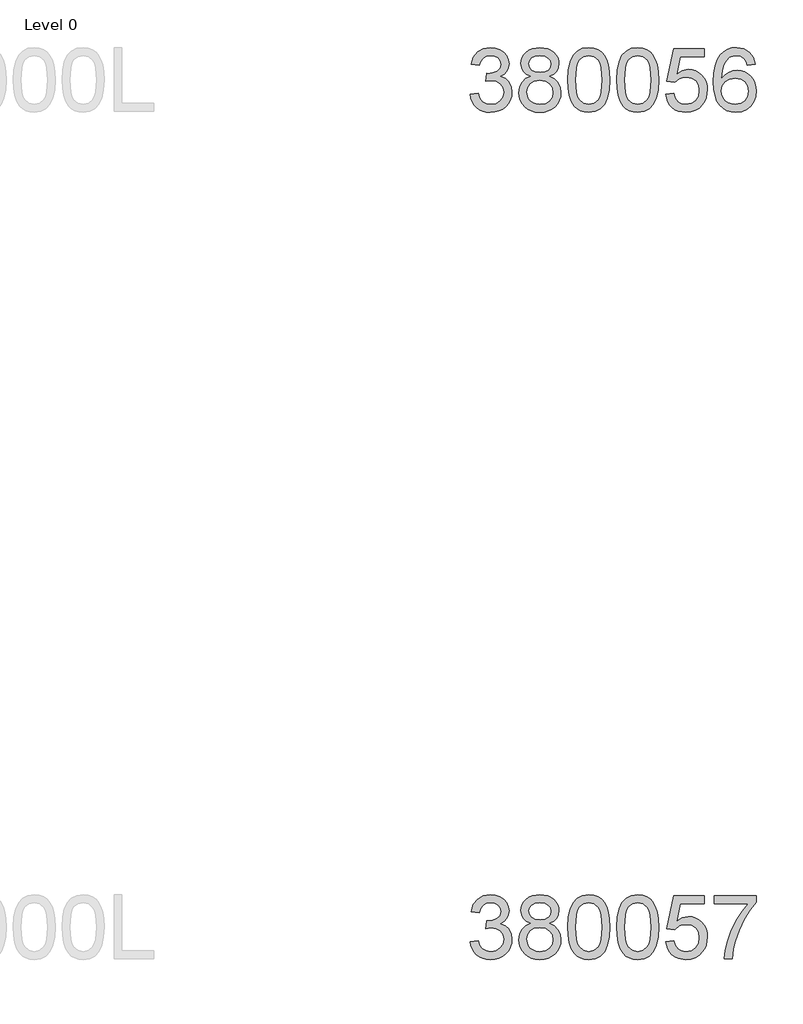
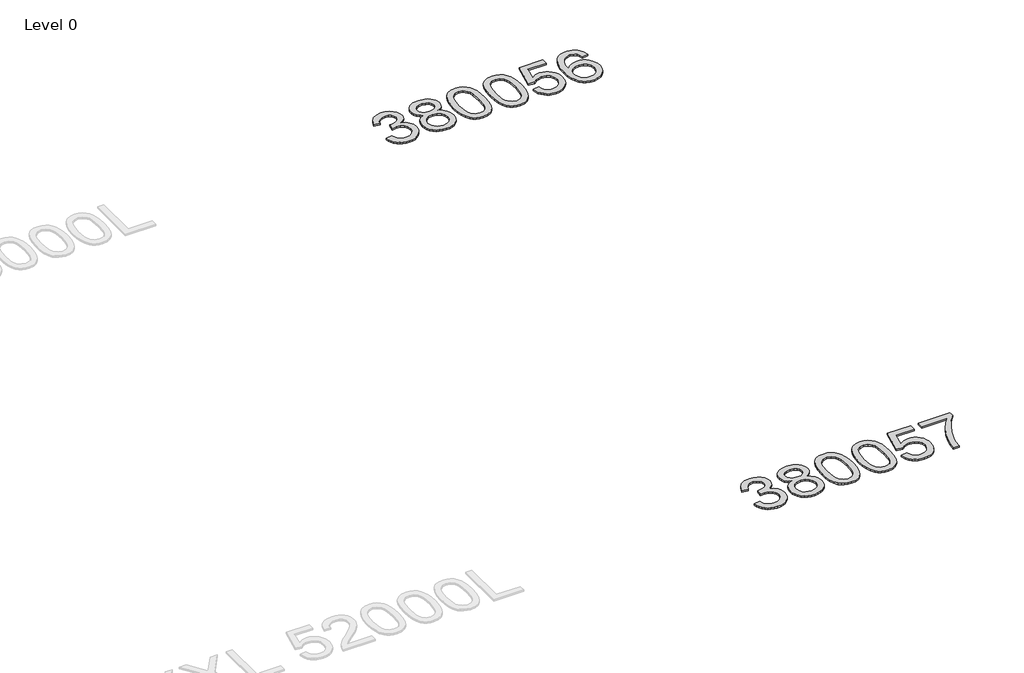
# One storey, part 8 of 37: 2 proxies.
"""IFC4 building model written with IfcOpenShell, lengths in millimetres."""

from ifc_helpers import new_model, si_unit, origin, origin_with_axes, place, context, project, spatial, polyline, outline, extrude, element, save

model = new_model("IFC4")

# Units and contexts
model_context = context("Model", 3, world=origin())
ifc_project = project(units=[si_unit("LENGTHUNIT", "METRE", prefix="MILLI")], contexts=[model_context])

# Site, building, storey
site = spatial("IfcSite", under=ifc_project)
building = spatial("IfcBuilding", under=site)
storey = spatial("IfcBuildingStorey", under=building, Name="Level 0", Elevation=0.0)

# Proxies
placement = place(None, origin())
element("IfcBuildingElementProxy", 1, Name="300mm Arial", ObjectType="300mm Arial", at=placement, inside=storey, context=model_context, shape_type="SweptSolid", body=[
    extrude(outline(polyline([(-6311.2846424, -25620.925676), (-6273.6135261, -25616.2167865), (-6265.1798313, -25639.8899929), (-6252.8281934, -25655.8744656), (-6235.9516068, -25664.979545), (-6213.9430665, -25668.0145714), (-6188.1177504, -25663.8391108), (-6168.1785463, -25651.3127288), (-6155.4314351, -25632.6243235), (-6151.1823981, -25609.9627926), (-6155.3946469, -25588.4508929), (-6168.0313935, -25571.0040893), (-6187.1612572, -25559.4433976), (-6210.8528577, -25555.5898337), (-6237.266785, -25559.710112), (-6233.0729302, -25522.0389957), (-6227.0396655, -25522.4804541), (-6204.4701051, -25519.7765215), (-6184.2917777, -25511.6647235), (-6170.0547444, -25497.942725), (-6165.3090667, -25478.4081911), (-6168.7487634, -25462.1386099), (-6179.0678533, -25448.9408433), (-6194.8132027, -25440.1944488), (-6214.5316777, -25437.278984), (-6234.2869408, -25440.22204), (-6250.4369604, -25449.0512079), (-6262.2275783, -25463.7664877), (-6268.9046365, -25484.3678794), (-6306.5757528, -25479.6589899), (-6295.4841107, -25445.8322404), (-6275.7472417, -25420.5771415), (-6248.7447032, -25404.8501862), (-6215.8560528, -25399.6078677), (-6192.1736494, -25402.1922387), (-6170.4226264, -25409.9453518), (-6152.083709, -25422.1774281), (-6138.637622, -25438.198689), (-6130.3878683, -25456.6571681), (-6127.6379504, -25476.2008991), (-6130.2499126, -25494.4110579), (-6138.0857991, -25510.9289595), (-6151.0352453, -25525.0004458), (-6168.9878867, -25535.8713587), (-6145.4066508, -25545.3995024), (-6127.932256, -25561.6230984), (-6117.1165253, -25583.6592299), (-6113.5112818, -25610.6249802), (-6115.3139036, -25629.7364498), (-6120.7217689, -25647.3396033), (-6129.7348778, -25663.4344406), (-6142.3532302, -25678.0209617), (-6157.7260991, -25690.1242793), (-6175.0027573, -25698.7695062), (-6194.1832048, -25703.9566423), (-6215.2674416, -25705.6856877), (-6234.323729, -25704.2095612), (-6251.6877592, -25699.7811817), (-6267.3595322, -25692.4005492), (-6281.339048, -25682.0676636), (-6293.0606881, -25669.3895304), (-6301.9588338, -25654.9731547), (-6308.0334853, -25638.8185366), (-6311.2846424, -25620.925676)])), origin_with_axes(), (0.0, 0.0, 1.0), 10.0),
    extrude(outline(polyline([(-6025.6610613, -25534.988442), (-6045.8301917, -25525.0556281), (-6059.9844515, -25511.5911471), (-6068.3445698, -25494.8709104), (-6071.1312759, -25475.1708295), (-6069.6137627, -25459.8071577), (-6065.061223, -25445.7218758), (-6057.4736569, -25432.9149839), (-6046.8510643, -25421.3864818), (-6033.7038815, -25411.8583382), (-6018.5425447, -25405.0525213), (-5982.1774095, -25399.6078677), (-5945.5915451, -25405.18128), (-5930.2646615, -25412.1480452), (-5916.9151436, -25421.9015166), (-5906.0994129, -25433.6553464), (-5898.373891, -25446.6231867), (-5893.7385779, -25460.8050376), (-5892.1934735, -25476.2008991), (-5894.9433914, -25495.2663835), (-5903.1931451, -25511.7015117), (-5917.0347052, -25525.0832192), (-5936.5600421, -25534.988442), (-5913.3742794, -25546.9354097), (-5896.4976928, -25564.5293662), (-5886.206194, -25586.9241826), (-5882.7756944, -25613.2737305), (-5884.4771486, -25632.0633034), (-5889.5815113, -25649.2893779), (-5898.0887825, -25664.9519538), (-5909.998962, -25679.0510313), (-5924.6866507, -25690.7036935), (-5941.526449, -25699.0270236), (-5960.518357, -25704.0210217), (-5981.6623747, -25705.6856877), (-6002.8063924, -25704.0141239), (-6021.7983004, -25698.9994325), (-6038.6380987, -25690.6416134), (-6053.3257874, -25678.9406667), (-6065.235967, -25664.7427209), (-6073.7432381, -25648.8939047), (-6078.8476008, -25631.3942181), (-6080.549055, -25612.2436609), (-6076.9805997, -25584.8732405), (-6066.2752336, -25562.3588624), (-6048.9847798, -25545.4730788), (-6025.6610613, -25534.988442)]), holes=[polyline([(-6033.4601596, -25476.2744755), (-6030.1216305, -25492.7188007), (-6020.1060432, -25505.8521879), (-6003.7077033, -25514.4606266), (-5981.2209163, -25517.3301062), (-5959.2583612, -25514.4790207), (-5943.1083416, -25505.9257643), (-5933.1755277, -25493.2338355), (-5929.8645898, -25477.9667327), (-5933.2858923, -25462.1202158), (-5943.5498, -25449.0144197), (-5959.9205488, -25440.2128429), (-5981.6623747, -25437.278984), (-6003.5421564, -25440.1484636), (-6019.885314, -25448.7569023), (-6030.0664482, -25461.3752547), (-6033.4601596, -25476.2744755)]), polyline([(-6042.8779387, -25610.9192858), (-6036.5871566, -25639.2829876), (-6027.8775504, -25651.4506846), (-6014.3302959, -25660.5097787), (-5998.1066999, -25666.1383732), (-5981.3680691, -25668.0145714), (-5955.726694, -25664.069037), (-5936.4864657, -25652.2324338), (-5924.4567245, -25634.3073836), (-5920.4468107, -25612.0965081), (-5924.5854832, -25589.5085536), (-5937.0015005, -25571.1880303), (-5956.6831872, -25559.0479244), (-5982.6188679, -25555.0012225), (-6007.901558, -25558.9927421), (-6026.9486483, -25570.9673011), (-6038.8956161, -25588.9383365), (-6042.8779387, -25610.9192858)])]), origin_with_axes(), (0.0, 0.0, 1.0), 10.0),
    extrude(outline(polyline([(-5849.8134676, -25552.7203541), (-5847.0451556, -25504.4818275), (-5838.7402196, -25466.0105679), (-5824.981433, -25436.717964), (-5805.8515692, -25416.0154047), (-5781.2126726, -25403.709752), (-5750.9267873, -25399.6078677), (-5727.7134334, -25402.0358889), (-5706.9281007, -25409.3199524), (-5689.5456764, -25421.1749497), (-5676.5410479, -25437.3157722), (-5666.7185986, -25457.6044643), (-5658.8827121, -25481.9030701), (-5653.7507583, -25512.7591724), (-5652.040107, -25552.7203541), (-5654.7808279, -25600.6829692), (-5663.0029905, -25639.0622584), (-5676.6790037, -25668.3824534), (-5695.7812763, -25689.1677861), (-5720.4753552, -25701.5562123), (-5750.9267873, -25705.6856877), (-5771.6753319, -25703.892263), (-5790.0694316, -25698.5119888), (-5806.1090866, -25689.5448652), (-5819.7942968, -25676.9908921), (-5832.9276841, -25654.2971715), (-5842.3086749, -25626.0208417), (-5847.9372695, -25592.1619025), (-5849.8134676, -25552.7203541)]), holes=[polyline([(-5812.1423513, -25552.6467777), (-5807.7277674, -25611.9033701), (-5802.2095375, -25632.1713688), (-5794.4840156, -25646.1991691), (-5774.7655406, -25662.5607208), (-5750.9267873, -25668.0145714), (-5727.088034, -25662.5423267), (-5707.3695591, -25646.1255927), (-5699.6440372, -25632.0747997), (-5694.1258073, -25611.8113996), (-5689.7112233, -25552.6467777), (-5693.9786545, -25494.7237576), (-5699.3129434, -25474.5224375), (-5706.7809479, -25460.1612441), (-5726.4626347, -25442.9995491), (-5751.3682457, -25437.278984), (-5774.9494816, -25442.3189674), (-5793.8954044, -25457.4389174), (-5801.8784437, -25473.0739022), (-5807.5806146, -25494.1535405), (-5812.1423513, -25552.6467777)])]), origin_with_axes(), (0.0, 0.0, 1.0), 10.0),
    extrude(outline(polyline([(-5619.0778803, -25552.7203541), (-5616.3095682, -25504.4818275), (-5608.0046322, -25466.0105679), (-5594.2458456, -25436.717964), (-5575.1159818, -25416.0154047), (-5550.4770852, -25403.709752), (-5520.1912, -25399.6078677), (-5496.9778461, -25402.0358889), (-5476.1925133, -25409.3199524), (-5458.8100891, -25421.1749497), (-5445.8054605, -25437.3157722), (-5435.9830113, -25457.6044643), (-5428.1471248, -25481.9030701), (-5423.0151709, -25512.7591724), (-5421.3045197, -25552.7203541), (-5424.0452405, -25600.6829692), (-5432.2674031, -25639.0622584), (-5445.9434163, -25668.3824534), (-5465.0456889, -25689.1677861), (-5489.7397678, -25701.5562123), (-5520.1912, -25705.6856877), (-5540.9397445, -25703.892263), (-5559.3338442, -25698.5119888), (-5575.3734992, -25689.5448652), (-5589.0587095, -25676.9908921), (-5602.1920967, -25654.2971715), (-5611.5730876, -25626.0208417), (-5617.2016821, -25592.1619025), (-5619.0778803, -25552.7203541)]), holes=[polyline([(-5581.406764, -25552.6467777), (-5576.99218, -25611.9033701), (-5571.4739501, -25632.1713688), (-5563.7484282, -25646.1991691), (-5544.0299532, -25662.5607208), (-5520.1912, -25668.0145714), (-5496.3524467, -25662.5423267), (-5476.6339717, -25646.1255927), (-5468.9084498, -25632.0747997), (-5463.3902199, -25611.8113996), (-5458.975636, -25552.6467777), (-5463.2430671, -25494.7237576), (-5468.577356, -25474.5224375), (-5476.0453605, -25460.1612441), (-5495.7270473, -25442.9995491), (-5520.6326584, -25437.278984), (-5544.2138942, -25442.3189674), (-5563.159817, -25457.4389174), (-5571.1428563, -25473.0739022), (-5576.8450272, -25494.1535405), (-5581.406764, -25552.6467777)])]), origin_with_axes(), (0.0, 0.0, 1.0), 10.0),
    extrude(outline(polyline([(-5388.3422929, -25620.925676), (-5350.6711766, -25616.2167865), (-5343.7549951, -25638.8323321), (-5331.6884656, -25655.028337), (-5314.5267706, -25664.7680128), (-5292.3250921, -25668.0145714), (-5265.3225537, -25663.4988199), (-5245.089044, -25649.9515654), (-5232.4522974, -25628.9363065), (-5228.2400486, -25602.0165415), (-5232.185583, -25576.669472), (-5244.0221862, -25557.2820909), (-5263.8418287, -25544.9764381), (-5291.736481, -25540.8745539), (-5310.0110191, -25542.5116288), (-5324.8090723, -25547.4228534), (-5345.962287, -25564.4190016), (-5383.6334033, -25559.710112), (-5350.6711766, -25404.3167573), (-5204.6956009, -25404.3167573), (-5204.6956009, -25441.9878736), (-5320.2105474, -25441.9878736), (-5336.3237788, -25524.9820517), (-5309.4132108, -25508.6480911), (-5281.2150559, -25503.2034376), (-5262.8692406, -25504.8910962), (-5246.017946, -25509.9540722), (-5230.661172, -25518.3923654), (-5216.7989185, -25530.205976), (-5205.3232995, -25544.6729355), (-5197.1264288, -25561.0712754), (-5192.2083064, -25579.4009958), (-5190.5689323, -25599.6620967), (-5196.4734383, -25637.333213), (-5203.8540708, -25654.1270261), (-5214.1869564, -25669.5596758), (-5229.8403353, -25685.364806), (-5248.1056763, -25696.6541847), (-5268.9829796, -25703.427812), (-5292.4722449, -25705.6856877), (-5329.4719766, -25699.8823492), (-5345.1506474, -25692.6281762), (-5358.9485215, -25682.4723338), (-5370.428739, -25669.92066), (-5379.1544401, -25655.4789924), (-5388.3422929, -25620.925676)])), origin_with_axes(), (0.0, 0.0, 1.0), 10.0),
    extrude(outline(polyline([(-4964.5422344, -25479.6589899), (-5002.2133507, -25484.3678794), (-5008.2834037, -25465.6978682), (-5016.4871722, -25452.950757), (-5033.5752908, -25441.1969273), (-5054.2318649, -25437.278984), (-5071.7430478, -25439.5598524), (-5088.2241612, -25446.4024575), (-5102.378421, -25460.8142347), (-5113.9391127, -25480.6522713), (-5121.747408, -25508.7124704), (-5124.6444787, -25547.7907354), (-5109.5337258, -25530.1599908), (-5091.4247346, -25517.7347764), (-5071.3291806, -25510.3679394), (-5050.2587393, -25507.9123271), (-5032.1589452, -25509.5907887), (-5015.4571026, -25514.6261735), (-5000.1532116, -25523.0184815), (-4986.2472722, -25534.7677128), (-4974.691179, -25549.1748914), (-4966.4368267, -25565.5410417), (-4961.4842154, -25583.8661635), (-4959.8333449, -25604.150257), (-4962.9419478, -25631.1252043), (-4972.2677563, -25656.131983), (-4987.0382184, -25677.34038), (-5006.4807819, -25692.9201825), (-5029.7125299, -25702.4943114), (-5055.8505456, -25705.6856877), (-5078.3074422, -25703.5703662), (-5098.5892364, -25697.2244018), (-5116.6959284, -25686.6477945), (-5132.627518, -25671.8405442), (-5145.6160517, -25652.1772515), (-5154.8935758, -25627.0325171), (-5160.4600902, -25596.406341), (-5162.3155951, -25560.2987232), (-5160.2554559, -25519.8179082), (-5154.0750384, -25485.2691903), (-5143.7743425, -25456.6525696), (-5129.3533683, -25433.9680461), (-5113.722982, -25418.9354681), (-5095.6001952, -25408.1979123), (-5074.9850079, -25401.7553789), (-5051.8774201, -25399.6078677), (-5018.8232228, -25404.9237626), (-4992.3541133, -25420.8714471), (-4973.8128607, -25446.2001224), (-4964.5422344, -25479.6589899)]), holes=[polyline([(-5124.6444787, -25603.5616459), (-5122.4647779, -25620.2542914), (-5115.9256755, -25636.1927788), (-5105.7721324, -25649.8963831), (-5092.7491098, -25659.8843793), (-5077.0313515, -25665.9820234), (-5058.7936016, -25668.0145714), (-5033.9339758, -25663.8023226), (-5014.3902448, -25651.165576), (-5001.7259071, -25631.2999483), (-4997.5044612, -25605.4010558), (-5001.6707248, -25580.54143), (-5014.1695156, -25561.5863102), (-5034.0443404, -25549.5841601), (-5060.338706, -25545.5834434), (-5085.1615436, -25549.5841601), (-5105.9192852, -25561.5863102), (-5119.9631804, -25580.0815775), (-5124.6444787, -25603.5616459)])]), origin_with_axes(), (0.0, 0.0, 1.0), 10.0),
])
element("IfcBuildingElementProxy", 2, Name="300mm Arial", ObjectType="300mm Arial", at=placement, inside=storey, context=model_context, shape_type="SweptSolid", body=[
    extrude(outline(polyline([(-6311.2846424, -29620.925676), (-6273.6135261, -29616.2167865), (-6265.1798313, -29639.8899929), (-6252.8281934, -29655.8744656), (-6235.9516068, -29664.979545), (-6213.9430665, -29668.0145714), (-6188.1177504, -29663.8391108), (-6168.1785463, -29651.3127288), (-6155.4314351, -29632.6243235), (-6151.1823981, -29609.9627926), (-6155.3946469, -29588.4508929), (-6168.0313935, -29571.0040893), (-6187.1612572, -29559.4433976), (-6210.8528577, -29555.5898337), (-6237.266785, -29559.710112), (-6233.0729302, -29522.0389957), (-6227.0396655, -29522.4804541), (-6204.4701051, -29519.7765215), (-6184.2917777, -29511.6647235), (-6170.0547444, -29497.942725), (-6165.3090667, -29478.4081911), (-6168.7487634, -29462.1386099), (-6179.0678533, -29448.9408433), (-6194.8132027, -29440.1944488), (-6214.5316777, -29437.278984), (-6234.2869408, -29440.22204), (-6250.4369604, -29449.0512079), (-6262.2275783, -29463.7664877), (-6268.9046365, -29484.3678794), (-6306.5757528, -29479.6589899), (-6295.4841107, -29445.8322404), (-6275.7472417, -29420.5771415), (-6248.7447032, -29404.8501862), (-6215.8560528, -29399.6078677), (-6192.1736494, -29402.1922387), (-6170.4226264, -29409.9453518), (-6152.083709, -29422.1774281), (-6138.637622, -29438.198689), (-6130.3878683, -29456.6571681), (-6127.6379504, -29476.2008991), (-6130.2499126, -29494.4110579), (-6138.0857991, -29510.9289595), (-6151.0352453, -29525.0004458), (-6168.9878867, -29535.8713587), (-6145.4066508, -29545.3995024), (-6127.932256, -29561.6230984), (-6117.1165253, -29583.6592299), (-6113.5112818, -29610.6249802), (-6115.3139036, -29629.7364498), (-6120.7217689, -29647.3396033), (-6129.7348778, -29663.4344406), (-6142.3532302, -29678.0209617), (-6157.7260991, -29690.1242793), (-6175.0027573, -29698.7695062), (-6194.1832048, -29703.9566423), (-6215.2674416, -29705.6856877), (-6234.323729, -29704.2095612), (-6251.6877592, -29699.7811817), (-6267.3595322, -29692.4005492), (-6281.339048, -29682.0676636), (-6293.0606881, -29669.3895304), (-6301.9588338, -29654.9731547), (-6308.0334853, -29638.8185366), (-6311.2846424, -29620.925676)])), origin_with_axes(), (0.0, 0.0, 1.0), 10.0),
    extrude(outline(polyline([(-6025.6610613, -29534.988442), (-6045.8301917, -29525.0556281), (-6059.9844515, -29511.5911471), (-6068.3445698, -29494.8709104), (-6071.1312759, -29475.1708295), (-6069.6137627, -29459.8071577), (-6065.061223, -29445.7218758), (-6057.4736569, -29432.9149839), (-6046.8510643, -29421.3864818), (-6033.7038815, -29411.8583382), (-6018.5425447, -29405.0525213), (-5982.1774095, -29399.6078677), (-5945.5915451, -29405.18128), (-5930.2646615, -29412.1480452), (-5916.9151436, -29421.9015166), (-5906.0994129, -29433.6553464), (-5898.373891, -29446.6231867), (-5893.7385779, -29460.8050376), (-5892.1934735, -29476.2008991), (-5894.9433914, -29495.2663835), (-5903.1931451, -29511.7015117), (-5917.0347052, -29525.0832192), (-5936.5600421, -29534.988442), (-5913.3742794, -29546.9354097), (-5896.4976928, -29564.5293662), (-5886.206194, -29586.9241826), (-5882.7756944, -29613.2737305), (-5884.4771486, -29632.0633034), (-5889.5815113, -29649.2893779), (-5898.0887825, -29664.9519538), (-5909.998962, -29679.0510313), (-5924.6866507, -29690.7036935), (-5941.526449, -29699.0270236), (-5960.518357, -29704.0210217), (-5981.6623747, -29705.6856877), (-6002.8063924, -29704.0141239), (-6021.7983004, -29698.9994325), (-6038.6380987, -29690.6416134), (-6053.3257874, -29678.9406667), (-6065.235967, -29664.7427209), (-6073.7432381, -29648.8939047), (-6078.8476008, -29631.3942181), (-6080.549055, -29612.2436609), (-6076.9805997, -29584.8732405), (-6066.2752336, -29562.3588624), (-6048.9847798, -29545.4730788), (-6025.6610613, -29534.988442)]), holes=[polyline([(-6033.4601596, -29476.2744755), (-6030.1216305, -29492.7188007), (-6020.1060432, -29505.8521879), (-6003.7077033, -29514.4606266), (-5981.2209163, -29517.3301062), (-5959.2583612, -29514.4790207), (-5943.1083416, -29505.9257643), (-5933.1755277, -29493.2338355), (-5929.8645898, -29477.9667327), (-5933.2858923, -29462.1202158), (-5943.5498, -29449.0144197), (-5959.9205488, -29440.2128429), (-5981.6623747, -29437.278984), (-6003.5421564, -29440.1484636), (-6019.885314, -29448.7569023), (-6030.0664482, -29461.3752547), (-6033.4601596, -29476.2744755)]), polyline([(-6042.8779387, -29610.9192858), (-6036.5871566, -29639.2829876), (-6027.8775504, -29651.4506846), (-6014.3302959, -29660.5097787), (-5998.1066999, -29666.1383732), (-5981.3680691, -29668.0145714), (-5955.726694, -29664.069037), (-5936.4864657, -29652.2324338), (-5924.4567245, -29634.3073836), (-5920.4468107, -29612.0965081), (-5924.5854832, -29589.5085536), (-5937.0015005, -29571.1880303), (-5956.6831872, -29559.0479244), (-5982.6188679, -29555.0012225), (-6007.901558, -29558.9927421), (-6026.9486483, -29570.9673011), (-6038.8956161, -29588.9383365), (-6042.8779387, -29610.9192858)])]), origin_with_axes(), (0.0, 0.0, 1.0), 10.0),
    extrude(outline(polyline([(-5849.8134676, -29552.7203541), (-5847.0451556, -29504.4818275), (-5838.7402196, -29466.0105679), (-5824.981433, -29436.717964), (-5805.8515692, -29416.0154047), (-5781.2126726, -29403.709752), (-5750.9267873, -29399.6078677), (-5727.7134334, -29402.0358889), (-5706.9281007, -29409.3199524), (-5689.5456764, -29421.1749497), (-5676.5410479, -29437.3157722), (-5666.7185986, -29457.6044643), (-5658.8827121, -29481.9030701), (-5653.7507583, -29512.7591724), (-5652.040107, -29552.7203541), (-5654.7808279, -29600.6829692), (-5663.0029905, -29639.0622584), (-5676.6790037, -29668.3824534), (-5695.7812763, -29689.1677861), (-5720.4753552, -29701.5562123), (-5750.9267873, -29705.6856877), (-5771.6753319, -29703.892263), (-5790.0694316, -29698.5119888), (-5806.1090866, -29689.5448652), (-5819.7942968, -29676.9908921), (-5832.9276841, -29654.2971715), (-5842.3086749, -29626.0208417), (-5847.9372695, -29592.1619025), (-5849.8134676, -29552.7203541)]), holes=[polyline([(-5812.1423513, -29552.6467777), (-5807.7277674, -29611.9033701), (-5802.2095375, -29632.1713688), (-5794.4840156, -29646.1991691), (-5774.7655406, -29662.5607208), (-5750.9267873, -29668.0145714), (-5727.088034, -29662.5423267), (-5707.3695591, -29646.1255927), (-5699.6440372, -29632.0747997), (-5694.1258073, -29611.8113996), (-5689.7112233, -29552.6467777), (-5693.9786545, -29494.7237576), (-5699.3129434, -29474.5224375), (-5706.7809479, -29460.1612441), (-5726.4626347, -29442.9995491), (-5751.3682457, -29437.278984), (-5774.9494816, -29442.3189674), (-5793.8954044, -29457.4389174), (-5801.8784437, -29473.0739022), (-5807.5806146, -29494.1535405), (-5812.1423513, -29552.6467777)])]), origin_with_axes(), (0.0, 0.0, 1.0), 10.0),
    extrude(outline(polyline([(-5619.0778803, -29552.7203541), (-5616.3095682, -29504.4818275), (-5608.0046322, -29466.0105679), (-5594.2458456, -29436.717964), (-5575.1159818, -29416.0154047), (-5550.4770852, -29403.709752), (-5520.1912, -29399.6078677), (-5496.9778461, -29402.0358889), (-5476.1925133, -29409.3199524), (-5458.8100891, -29421.1749497), (-5445.8054605, -29437.3157722), (-5435.9830113, -29457.6044643), (-5428.1471248, -29481.9030701), (-5423.0151709, -29512.7591724), (-5421.3045197, -29552.7203541), (-5424.0452405, -29600.6829692), (-5432.2674031, -29639.0622584), (-5445.9434163, -29668.3824534), (-5465.0456889, -29689.1677861), (-5489.7397678, -29701.5562123), (-5520.1912, -29705.6856877), (-5540.9397445, -29703.892263), (-5559.3338442, -29698.5119888), (-5575.3734992, -29689.5448652), (-5589.0587095, -29676.9908921), (-5602.1920967, -29654.2971715), (-5611.5730876, -29626.0208417), (-5617.2016821, -29592.1619025), (-5619.0778803, -29552.7203541)]), holes=[polyline([(-5581.406764, -29552.6467777), (-5576.99218, -29611.9033701), (-5571.4739501, -29632.1713688), (-5563.7484282, -29646.1991691), (-5544.0299532, -29662.5607208), (-5520.1912, -29668.0145714), (-5496.3524467, -29662.5423267), (-5476.6339717, -29646.1255927), (-5468.9084498, -29632.0747997), (-5463.3902199, -29611.8113996), (-5458.975636, -29552.6467777), (-5463.2430671, -29494.7237576), (-5468.577356, -29474.5224375), (-5476.0453605, -29460.1612441), (-5495.7270473, -29442.9995491), (-5520.6326584, -29437.278984), (-5544.2138942, -29442.3189674), (-5563.159817, -29457.4389174), (-5571.1428563, -29473.0739022), (-5576.8450272, -29494.1535405), (-5581.406764, -29552.6467777)])]), origin_with_axes(), (0.0, 0.0, 1.0), 10.0),
    extrude(outline(polyline([(-5388.3422929, -29620.925676), (-5350.6711766, -29616.2167865), (-5343.7549951, -29638.8323321), (-5331.6884656, -29655.028337), (-5314.5267706, -29664.7680128), (-5292.3250921, -29668.0145714), (-5265.3225537, -29663.4988199), (-5245.089044, -29649.9515654), (-5232.4522974, -29628.9363065), (-5228.2400486, -29602.0165415), (-5232.185583, -29576.669472), (-5244.0221862, -29557.2820909), (-5263.8418287, -29544.9764381), (-5291.736481, -29540.8745539), (-5310.0110191, -29542.5116288), (-5324.8090723, -29547.4228534), (-5345.962287, -29564.4190016), (-5383.6334033, -29559.710112), (-5350.6711766, -29404.3167573), (-5204.6956009, -29404.3167573), (-5204.6956009, -29441.9878736), (-5320.2105474, -29441.9878736), (-5336.3237788, -29524.9820517), (-5309.4132108, -29508.6480911), (-5281.2150559, -29503.2034376), (-5262.8692406, -29504.8910962), (-5246.017946, -29509.9540722), (-5230.661172, -29518.3923654), (-5216.7989185, -29530.205976), (-5205.3232995, -29544.6729355), (-5197.1264288, -29561.0712754), (-5192.2083064, -29579.4009958), (-5190.5689323, -29599.6620967), (-5196.4734383, -29637.333213), (-5203.8540708, -29654.1270261), (-5214.1869564, -29669.5596758), (-5229.8403353, -29685.364806), (-5248.1056763, -29696.6541847), (-5268.9829796, -29703.427812), (-5292.4722449, -29705.6856877), (-5329.4719766, -29699.8823492), (-5345.1506474, -29692.6281762), (-5358.9485215, -29682.4723338), (-5370.428739, -29669.92066), (-5379.1544401, -29655.4789924), (-5388.3422929, -29620.925676)])), origin_with_axes(), (0.0, 0.0, 1.0), 10.0),
    extrude(outline(polyline([(-5157.6067055, -29441.9878736), (-5157.6067055, -29404.3167573), (-4959.8333449, -29404.3167573), (-4959.8333449, -29434.7773865), (-4988.0223028, -29470.452743), (-5015.9353492, -29515.82179), (-5040.5558517, -29566.7458552), (-5058.867178, -29619.0862661), (-5067.8434987, -29658.2473044), (-5072.8466938, -29700.9767982), (-5110.5178101, -29700.9767982), (-5106.443517, -29662.1468536), (-5095.5450129, -29615.9960573), (-5078.1166034, -29567.076949), (-5054.4525941, -29519.9420684), (-5026.8246562, -29477.3321363), (-4997.5044612, -29441.9878736), (-5157.6067055, -29441.9878736)])), origin_with_axes(), (0.0, 0.0, 1.0), 10.0),
])

save(model, "model.ifc")
